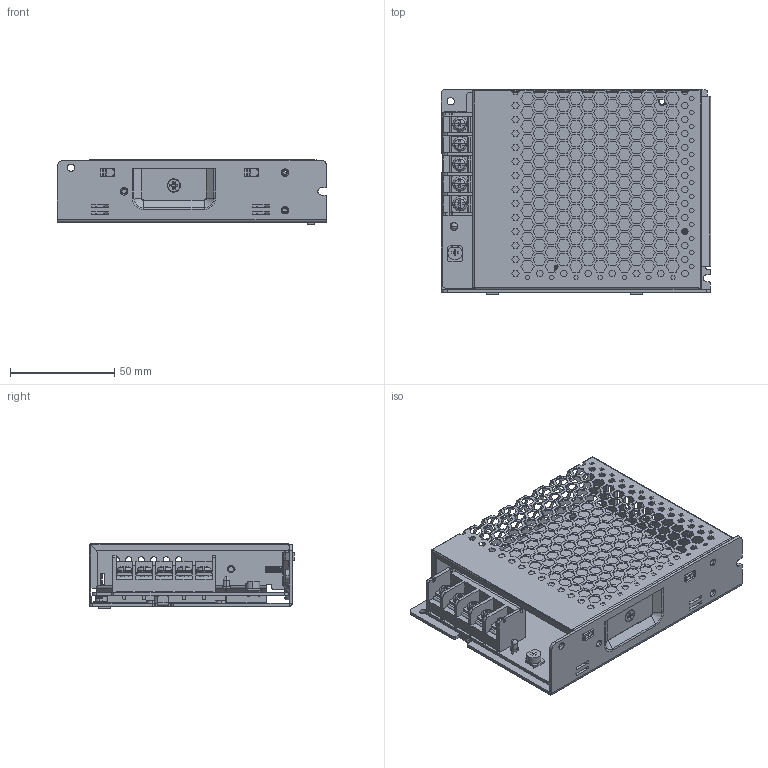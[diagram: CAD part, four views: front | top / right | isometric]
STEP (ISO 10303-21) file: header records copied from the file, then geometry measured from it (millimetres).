
FILE_DESCRIPTION((''),'2;1');
FILE_NAME('PA100AW_ASM','2024-07-04T',('mingfu.wu'),(''),'PRO/ENGINEER BY PARAMETRIC TECHNOLOGY CORPORATION, 2011310','PRO/ENGINEER BY PARAMETRIC TECHNOLOGY CORPORATION, 2011310','');
FILE_SCHEMA(('AUTOMOTIVE_DESIGN { 1 0 10303 214 1 1 1 1 }'));
Products named in the file (12): BOT-PA100W; LZ_3X5; BOT-PA100W_ASM; TOP-PA100W; PCB-100W; DUANZI-5PIN; VR; LEDC2-2_54-3-1; PCBA-100W_ASM; KM3X10_GB819-85; LS_3-4; PA100AW_ASM
Assembly tree (13 placements, depth 3):
  PA100AW_ASM
    BOT-PA100W_ASM
      BOT-PA100W
      LZ_3X5  x2
    TOP-PA100W
    PCBA-100W_ASM
      PCB-100W
      DUANZI-5PIN
      VR
      LEDC2-2_54-3-1
    KM3X10_GB819-85  x2
    LS_3-4
Bounding box: 129 x 98 x 31 mm (x, y, z)
Volume: 59479.7 mm3; surface area: 91198 mm2
Topology: 11 solids, 17 shells, 2967 faces, 8254 edges, 5311 vertices
Faces by surface type: plane 2412, cylinder 361, cone 86, bspline 72, torus 24, sphere 12
Entity records: 117400 total; most frequent: CARTESIAN_POINT 21399, ORIENTED_EDGE 16010, DIRECTION 14372, EDGE_CURVE 8021, VECTOR 7032, LINE 7032, PRESENTATION_STYLE_ASSIGNMENT 6699, STYLED_ITEM 6699
